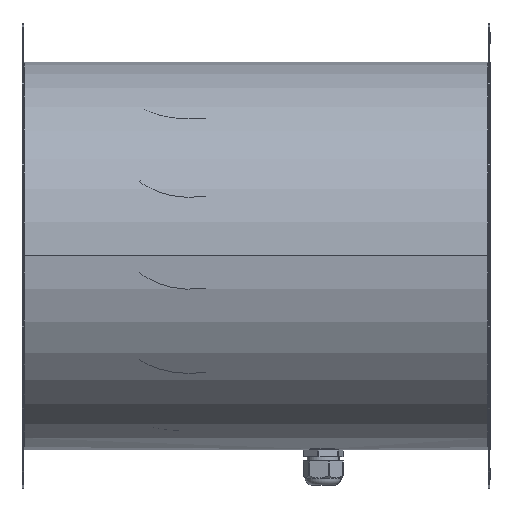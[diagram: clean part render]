
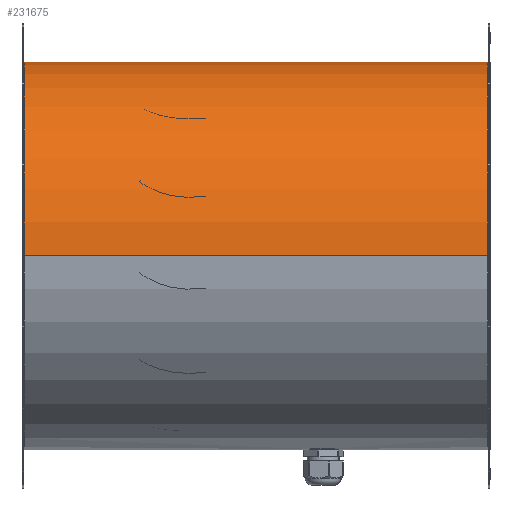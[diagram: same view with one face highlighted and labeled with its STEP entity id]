
A CAD part, top view. The second image highlights one B-rep face of the part: STEP entity #231675.
In plain terms, the highlighted cylindrical face has radius 158.75 mm (diameter 317.5 mm), a partial arc.
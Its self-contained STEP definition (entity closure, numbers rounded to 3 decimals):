
#4403 = DIRECTION ( 'NONE',  ( 1., 0., 0. ) ) ;
#11708 = VECTOR ( 'NONE', #224219, 1000. ) ;
#15187 = VECTOR ( 'NONE', #170512, 1000. ) ;
#16243 = CIRCLE ( 'NONE', #110478, 158.75 ) ;
#17308 = LINE ( 'NONE', #188004, #11708 ) ;
#24573 = ORIENTED_EDGE ( 'NONE', *, *, #137587, .F. ) ;
#27231 = CARTESIAN_POINT ( 'NONE',  ( -79.5, 3.024, -158.721 ) ) ;
#33223 = CARTESIAN_POINT ( 'NONE',  ( -79.5, 0., -158.75 ) ) ;
#34577 = VERTEX_POINT ( 'NONE', #174784 ) ;
#35164 = ORIENTED_EDGE ( 'NONE', *, *, #198851, .F. ) ;
#39001 = EDGE_CURVE ( 'NONE', #66400, #95715, #79074, .T. ) ;
#40740 = EDGE_CURVE ( 'NONE', #95715, #48534, #183116, .T. ) ;
#43088 = DIRECTION ( 'NONE',  ( 1., 0., 0. ) ) ;
#48534 = VERTEX_POINT ( 'NONE', #207333 ) ;
#51752 = LINE ( 'NONE', #227983, #189822 ) ;
#54576 = ORIENTED_EDGE ( 'NONE', *, *, #111446, .T. ) ;
#58926 = CARTESIAN_POINT ( 'NONE',  ( 299.125, 0., -158.75 ) ) ;
#64888 = ORIENTED_EDGE ( 'NONE', *, *, #100043, .F. ) ;
#66400 = VERTEX_POINT ( 'NONE', #129486 ) ;
#67323 = CARTESIAN_POINT ( 'NONE',  ( -79.5, 0., 0. ) ) ;
#68763 = LINE ( 'NONE', #27231, #15187 ) ;
#69449 = DIRECTION ( 'NONE',  ( 1., 0., 0. ) ) ;
#71359 = CARTESIAN_POINT ( 'NONE',  ( -80.125, 0., 0. ) ) ;
#74686 = DIRECTION ( 'NONE',  ( 1., 0., 0. ) ) ;
#79074 = CIRCLE ( 'NONE', #157603, 158.75 ) ;
#79417 = CARTESIAN_POINT ( 'NONE',  ( -80.125, 0., 158.75 ) ) ;
#80782 = AXIS2_PLACEMENT_3D ( 'NONE', #182491, #74686, #200615 ) ;
#83156 = CARTESIAN_POINT ( 'NONE',  ( 298.5, 0., 0. ) ) ;
#83341 = VERTEX_POINT ( 'NONE', #58926 ) ;
#89456 = DIRECTION ( 'NONE',  ( 0., 0., 1. ) ) ;
#90463 = CARTESIAN_POINT ( 'NONE',  ( -80.125, 0., -158.75 ) ) ;
#90498 = FACE_OUTER_BOUND ( 'NONE', #169360, .T. ) ;
#91126 = CIRCLE ( 'NONE', #102174, 158.75 ) ;
#95715 = VERTEX_POINT ( 'NONE', #184898 ) ;
#99411 = AXIS2_PLACEMENT_3D ( 'NONE', #67323, #175164, #157031 ) ;
#100043 = EDGE_CURVE ( 'NONE', #66400, #83341, #168677, .T. ) ;
#101242 = DIRECTION ( 'NONE',  ( 0., 0., 1. ) ) ;
#101974 = VERTEX_POINT ( 'NONE', #218156 ) ;
#102174 = AXIS2_PLACEMENT_3D ( 'NONE', #214756, #106912, #232827 ) ;
#106912 = DIRECTION ( 'NONE',  ( 1., 0., 0. ) ) ;
#110478 = AXIS2_PLACEMENT_3D ( 'NONE', #71359, #197291, #89456 ) ;
#111116 = VERTEX_POINT ( 'NONE', #79417 ) ;
#111446 = EDGE_CURVE ( 'NONE', #111116, #34577, #17308, .T. ) ;
#112284 = CARTESIAN_POINT ( 'NONE',  ( -79.5, 0., 0. ) ) ;
#116886 = CIRCLE ( 'NONE', #163861, 158.75 ) ;
#118884 = VERTEX_POINT ( 'NONE', #90463 ) ;
#120792 = VECTOR ( 'NONE', #69449, 1000. ) ;
#122146 = ORIENTED_EDGE ( 'NONE', *, *, #39001, .T. ) ;
#127076 = CYLINDRICAL_SURFACE ( 'NONE', #99411, 158.75 ) ;
#127139 = ORIENTED_EDGE ( 'NONE', *, *, #168855, .F. ) ;
#129486 = CARTESIAN_POINT ( 'NONE',  ( 298.5, 0., -158.75 ) ) ;
#130356 = DIRECTION ( 'NONE',  ( 0., 0., 1. ) ) ;
#133368 = ORIENTED_EDGE ( 'NONE', *, *, #203858, .F. ) ;
#137587 = EDGE_CURVE ( 'NONE', #101974, #148191, #216413, .T. ) ;
#141579 = EDGE_CURVE ( 'NONE', #118884, #111116, #16243, .T. ) ;
#148191 = VERTEX_POINT ( 'NONE', #162616 ) ;
#149917 = VERTEX_POINT ( 'NONE', #205094 ) ;
#150909 = CARTESIAN_POINT ( 'NONE',  ( 299.125, 0., 0. ) ) ;
#157031 = DIRECTION ( 'NONE',  ( 0., 0., 1. ) ) ;
#157603 = AXIS2_PLACEMENT_3D ( 'NONE', #83156, #209085, #101242 ) ;
#162616 = CARTESIAN_POINT ( 'NONE',  ( -79.5, 3.024, -158.721 ) ) ;
#163861 = AXIS2_PLACEMENT_3D ( 'NONE', #150909, #43088, #169034 ) ;
#168677 = LINE ( 'NONE', #33223, #120792 ) ;
#168855 = EDGE_CURVE ( 'NONE', #118884, #149917, #51752, .T. ) ;
#169034 = DIRECTION ( 'NONE',  ( 0., 0., 1. ) ) ;
#169360 = EDGE_LOOP ( 'NONE', ( #127139, #179348, #54576, #35164, #64888, #122146, #203145, #133368, #24573, #185034 ) ) ;
#170512 = DIRECTION ( 'NONE',  ( 1., 0., 0. ) ) ;
#174784 = CARTESIAN_POINT ( 'NONE',  ( 299.125, 0., 158.75 ) ) ;
#175164 = DIRECTION ( 'NONE',  ( 1., 0., 0. ) ) ;
#175285 = AXIS2_PLACEMENT_3D ( 'NONE', #112284, #4403, #130356 ) ;
#179348 = ORIENTED_EDGE ( 'NONE', *, *, #141579, .T. ) ;
#182491 = CARTESIAN_POINT ( 'NONE',  ( 298.5, 0., 0. ) ) ;
#183116 = CIRCLE ( 'NONE', #80782, 158.75 ) ;
#184898 = CARTESIAN_POINT ( 'NONE',  ( 298.5, 3., -158.722 ) ) ;
#185034 = ORIENTED_EDGE ( 'NONE', *, *, #208015, .F. ) ;
#188004 = CARTESIAN_POINT ( 'NONE',  ( -79.5, 0., 158.75 ) ) ;
#189822 = VECTOR ( 'NONE', #212181, 1000. ) ;
#197291 = DIRECTION ( 'NONE',  ( 1., 0., 0. ) ) ;
#198851 = EDGE_CURVE ( 'NONE', #83341, #34577, #116886, .T. ) ;
#200615 = DIRECTION ( 'NONE',  ( 0., 0., 1. ) ) ;
#203145 = ORIENTED_EDGE ( 'NONE', *, *, #40740, .T. ) ;
#203858 = EDGE_CURVE ( 'NONE', #148191, #48534, #68763, .T. ) ;
#205094 = CARTESIAN_POINT ( 'NONE',  ( -79.5, 0., -158.75 ) ) ;
#207333 = CARTESIAN_POINT ( 'NONE',  ( 298.5, 3.024, -158.721 ) ) ;
#208015 = EDGE_CURVE ( 'NONE', #149917, #101974, #91126, .T. ) ;
#209085 = DIRECTION ( 'NONE',  ( 1., 0., 0. ) ) ;
#212181 = DIRECTION ( 'NONE',  ( 1., 0., 0. ) ) ;
#214756 = CARTESIAN_POINT ( 'NONE',  ( -79.5, 0., 0. ) ) ;
#216413 = CIRCLE ( 'NONE', #175285, 158.75 ) ;
#218156 = CARTESIAN_POINT ( 'NONE',  ( -79.5, 3., -158.722 ) ) ;
#224219 = DIRECTION ( 'NONE',  ( 1., 0., 0. ) ) ;
#227983 = CARTESIAN_POINT ( 'NONE',  ( -79.5, 0., -158.75 ) ) ;
#231675 = ADVANCED_FACE ( 'NONE', ( #90498 ), #127076, .T. ) ;
#232827 = DIRECTION ( 'NONE',  ( 0., 0., 1. ) ) ;
